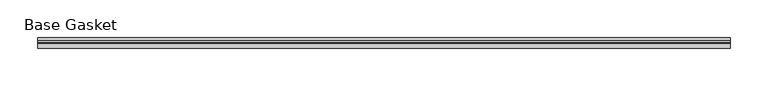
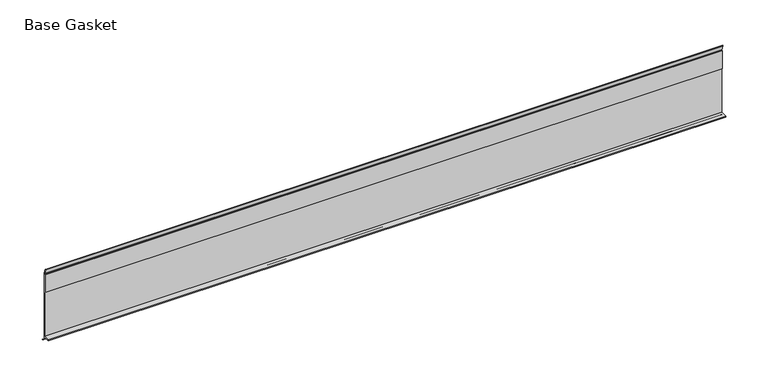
"""IFC4 building model written with IfcOpenShell, lengths in millimetres: furniture geometry, Gasket-Teknion-FHGB-AI_Healthcare-R2021 : Base Gasket."""

from ifc_helpers import new_model, si_unit, frame, origin, place, context, project, spatial, polyline, outline, extrude, source, transform, mapped, element, save


def base_gasket_c7fe4c1a(model_context):
    return source(origin(), model_context, "Body", "SweptSolid", [
        extrude(outline(polyline([(3.7283812, 98.4568417), (3.7283812, 4.3498477), (7.4222115, 0.6560174), (7.8482342, 0.0), (6.8281054, 0.3520979), (2.2043812, 4.3498477), (2.1334222, 6.3818476), (-6.2405171, 6.3818476), (-6.2405171, 7.9398773), (2.2043812, 7.9398773), (2.2043812, 71.4693447), (1.4106313, 71.4693447), (1.4106313, 96.8693477), (2.2043812, 96.8693477), (2.2043812, 98.4568417), (0.6755308, 104.4162708), (0.6755308, 105.2002997), (1.1891543, 104.587663), (3.7283812, 98.4568417)])), frame((-1527.8982117, 0.0, 0.0), z_axis=(1.0, 0.0, 0.0), x_axis=(0.0, 1.0, 0.0)), (0.0, 0.0, 1.0), 920.75),
    ])


if __name__ == "__main__":
    model = new_model("IFC4")
    model_context = context("Model", 3, world=origin())
    ifc_project = project(units=[si_unit("LENGTHUNIT", "METRE", prefix="MILLI")], contexts=[model_context])
    site = spatial("IfcSite", under=ifc_project)
    building = spatial("IfcBuilding", under=site)
    placement = place(None, origin())
    base_gasket_shape = base_gasket_c7fe4c1a(model_context)
    element("IfcFurniture", 1, ObjectType="Gasket-Teknion-FHGB-AI_Healthcare-R2021 : Base Gasket", at=placement, inside=building, context=model_context, shape_type="MappedRepresentation", body=[
        mapped(base_gasket_shape, transform((0.0, 0.0, 0.0), x_axis=(1.0, 0.0, 0.0), y_axis=(0.0, 1.0, 0.0), z_axis=(0.0, 0.0, 1.0))),
    ])
    save(model, "model.ifc")
